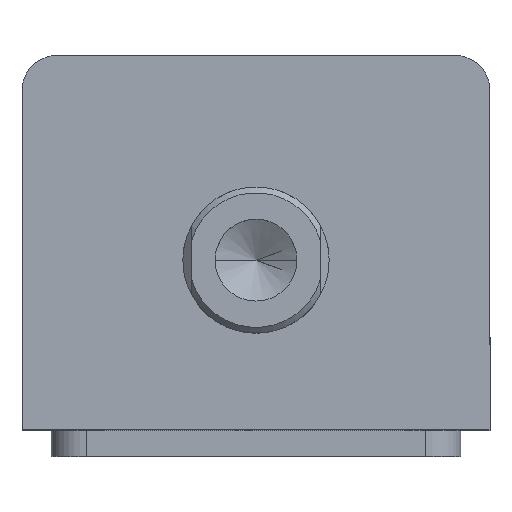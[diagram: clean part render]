
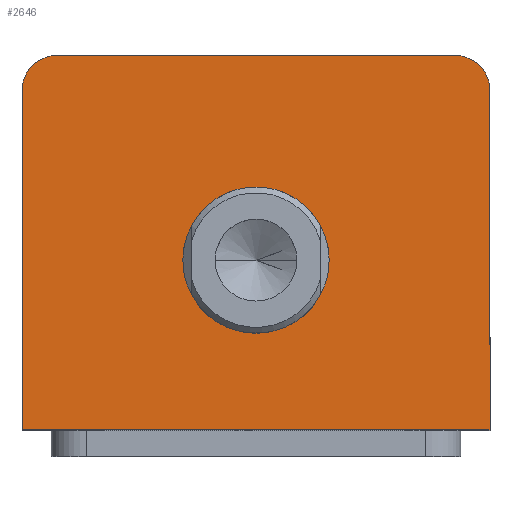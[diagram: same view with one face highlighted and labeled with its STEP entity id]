
A CAD part, top view. The second image highlights one B-rep face of the part: STEP entity #2646.
In plain terms, the highlighted planar face has unit normal (0, 0, 1).
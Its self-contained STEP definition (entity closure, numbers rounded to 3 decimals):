
#60 = EDGE_CURVE ( 'NONE', #1514, #1527, #1649, .T. ) ;
#88 = EDGE_CURVE ( 'NONE', #1428, #1367, #1687, .T. ) ;
#104 = EDGE_CURVE ( 'NONE', #1402, #1366, #1719, .T. ) ;
#125 = EDGE_CURVE ( 'NONE', #1367, #1437, #1759, .T. ) ;
#133 = EDGE_CURVE ( 'NONE', #1437, #1402, #1766, .T. ) ;
#142 = EDGE_CURVE ( 'NONE', #1366, #1441, #1779, .T. ) ;
#146 = EDGE_CURVE ( 'NONE', #1441, #1428, #1785, .T. ) ;
#159 = EDGE_CURVE ( 'NONE', #1527, #1514, #1811, .T. ) ;
#309 = AXIS2_PLACEMENT_3D ( 'NONE', #2520, #2519, #2517 ) ;
#336 = AXIS2_PLACEMENT_3D ( 'NONE', #2944, #2943, #2941 ) ;
#343 = AXIS2_PLACEMENT_3D ( 'NONE', #2908, #2906, #2905 ) ;
#345 = AXIS2_PLACEMENT_3D ( 'NONE', #2856, #2855, #2854 ) ;
#483 = AXIS2_PLACEMENT_3D ( 'NONE', #3248, #3232, #3231 ) ;
#703 = CARTESIAN_POINT ( 'NONE',  ( -40., 26., 85. ) ) ;
#754 = CARTESIAN_POINT ( 'NONE',  ( 40., 26., 85. ) ) ;
#771 = CARTESIAN_POINT ( 'NONE',  ( -40., -32., 85. ) ) ;
#842 = CARTESIAN_POINT ( 'NONE',  ( 34., 32., 85. ) ) ;
#906 = CARTESIAN_POINT ( 'NONE',  ( 12.5, -3., 85. ) ) ;
#908 = CARTESIAN_POINT ( 'NONE',  ( -34., 32., 85. ) ) ;
#925 = CARTESIAN_POINT ( 'NONE',  ( -12.5, -3., 85. ) ) ;
#1058 = ORIENTED_EDGE ( 'NONE', *, *, #133, .T. ) ;
#1059 = ORIENTED_EDGE ( 'NONE', *, *, #125, .T. ) ;
#1060 = ORIENTED_EDGE ( 'NONE', *, *, #88, .T. ) ;
#1061 = ORIENTED_EDGE ( 'NONE', *, *, #146, .T. ) ;
#1062 = ORIENTED_EDGE ( 'NONE', *, *, #142, .T. ) ;
#1063 = ORIENTED_EDGE ( 'NONE', *, *, #104, .T. ) ;
#1064 = ORIENTED_EDGE ( 'NONE', *, *, #60, .F. ) ;
#1065 = ORIENTED_EDGE ( 'NONE', *, *, #159, .F. ) ;
#1264 = EDGE_LOOP ( 'NONE', ( #1063, #1062, #1061, #1060, #1059, #1058 ) ) ;
#1351 = EDGE_LOOP ( 'NONE', ( #1065, #1064 ) ) ;
#1366 = VERTEX_POINT ( 'NONE', #908 ) ;
#1367 = VERTEX_POINT ( 'NONE', #3360 ) ;
#1402 = VERTEX_POINT ( 'NONE', #842 ) ;
#1428 = VERTEX_POINT ( 'NONE', #771 ) ;
#1437 = VERTEX_POINT ( 'NONE', #754 ) ;
#1441 = VERTEX_POINT ( 'NONE', #703 ) ;
#1514 = VERTEX_POINT ( 'NONE', #925 ) ;
#1527 = VERTEX_POINT ( 'NONE', #906 ) ;
#1649 = CIRCLE ( 'NONE', #309, 12.5 ) ;
#1687 = LINE ( 'NONE', #2438, #1694 ) ;
#1694 = VECTOR ( 'NONE', #2957, 1000. ) ;
#1719 = LINE ( 'NONE', #2857, #1722 ) ;
#1722 = VECTOR ( 'NONE', #2853, 1000. ) ;
#1759 = LINE ( 'NONE', #2735, #1762 ) ;
#1762 = VECTOR ( 'NONE', #2731, 1000. ) ;
#1766 = CIRCLE ( 'NONE', #336, 6. ) ;
#1779 = CIRCLE ( 'NONE', #343, 6. ) ;
#1785 = LINE ( 'NONE', #2894, #1788 ) ;
#1788 = VECTOR ( 'NONE', #2892, 1000. ) ;
#1811 = CIRCLE ( 'NONE', #345, 12.5 ) ;
#2109 = FACE_BOUND ( 'NONE', #1351, .T. ) ;
#2121 = FACE_OUTER_BOUND ( 'NONE', #1264, .T. ) ;
#2438 = CARTESIAN_POINT ( 'NONE',  ( -40., -32., 85. ) ) ;
#2517 = DIRECTION ( 'NONE',  ( 1., 0., 0. ) ) ;
#2519 = DIRECTION ( 'NONE',  ( 0., 0., 1. ) ) ;
#2520 = CARTESIAN_POINT ( 'NONE',  ( 0., -3., 85. ) ) ;
#2646 = ADVANCED_FACE ( 'NONE', ( #2109, #2121 ), #3247, .T. ) ;
#2731 = DIRECTION ( 'NONE',  ( 0., 1., 0. ) ) ;
#2735 = CARTESIAN_POINT ( 'NONE',  ( 40., 32., 85. ) ) ;
#2853 = DIRECTION ( 'NONE',  ( -1., 0., 0. ) ) ;
#2854 = DIRECTION ( 'NONE',  ( 1., 0., 0. ) ) ;
#2855 = DIRECTION ( 'NONE',  ( 0., 0., 1. ) ) ;
#2856 = CARTESIAN_POINT ( 'NONE',  ( 0., -3., 85. ) ) ;
#2857 = CARTESIAN_POINT ( 'NONE',  ( -40., 32., 85. ) ) ;
#2892 = DIRECTION ( 'NONE',  ( 0., -1., 0. ) ) ;
#2894 = CARTESIAN_POINT ( 'NONE',  ( -40., 32., 85. ) ) ;
#2905 = DIRECTION ( 'NONE',  ( 1., 0., 0. ) ) ;
#2906 = DIRECTION ( 'NONE',  ( 0., 0., 1. ) ) ;
#2908 = CARTESIAN_POINT ( 'NONE',  ( -34., 26., 85. ) ) ;
#2941 = DIRECTION ( 'NONE',  ( 1., 0., 0. ) ) ;
#2943 = DIRECTION ( 'NONE',  ( 0., 0., 1. ) ) ;
#2944 = CARTESIAN_POINT ( 'NONE',  ( 34., 26., 85. ) ) ;
#2957 = DIRECTION ( 'NONE',  ( 1., 0., 0. ) ) ;
#3231 = DIRECTION ( 'NONE',  ( 1., 0., 0. ) ) ;
#3232 = DIRECTION ( 'NONE',  ( 0., 0., 1. ) ) ;
#3247 = PLANE ( 'NONE',  #483 ) ;
#3248 = CARTESIAN_POINT ( 'NONE',  ( 0., 0., 85. ) ) ;
#3360 = CARTESIAN_POINT ( 'NONE',  ( 40., -32., 85. ) ) ;
